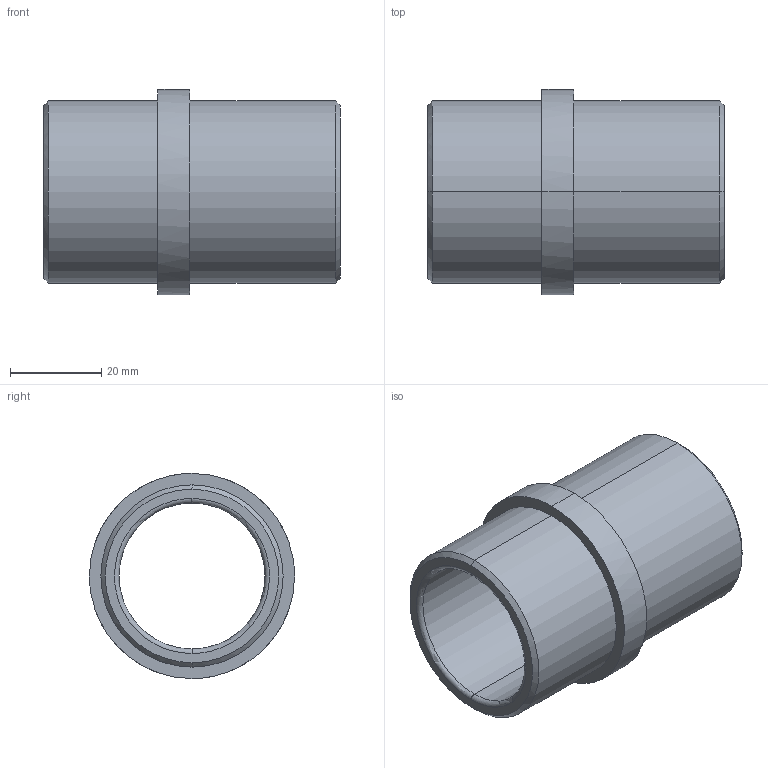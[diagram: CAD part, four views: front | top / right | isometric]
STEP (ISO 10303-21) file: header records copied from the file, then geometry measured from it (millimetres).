
FILE_DESCRIPTION(('CATIA V5 STEP Exchange'),'2;1');
FILE_NAME('C:\Users\Utente\Desktop\IO LAVORO\3D X SITO CF\X SITO\PLASTICA\355\355-32X65.stp','2021-04-21T08:53:51+00:00',('none'),('none'),'CATIA Version 5 Release 20 GA (IN-10)','CATIA V5 STEP AP203','none');
FILE_SCHEMA(('CONFIG_CONTROL_DESIGN'));
Length unit declared in the file: millimetre
Products named in the file (1): 355-32X65
Bounding box: 65 x 45 x 45 mm (x, y, z)
Volume: 31574.5 mm3; surface area: 16149.7 mm2
Topology: 1 solids, 1 shells, 20 faces, 64 edges, 48 vertices
Faces by surface type: cylinder 8, plane 4, cone 4, torus 4
Entity records: 906 total; most frequent: CARTESIAN_POINT 301, ORIENTED_EDGE 128, DIRECTION 92, EDGE_CURVE 64, AXIS2_PLACEMENT_3D 61, VERTEX_POINT 48, CIRCLE 40, EDGE_LOOP 24
